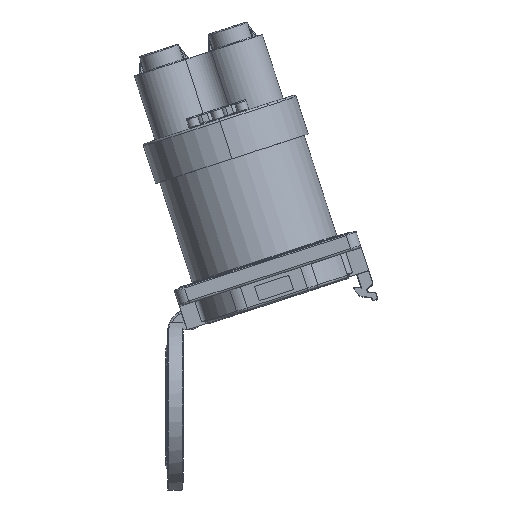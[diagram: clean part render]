
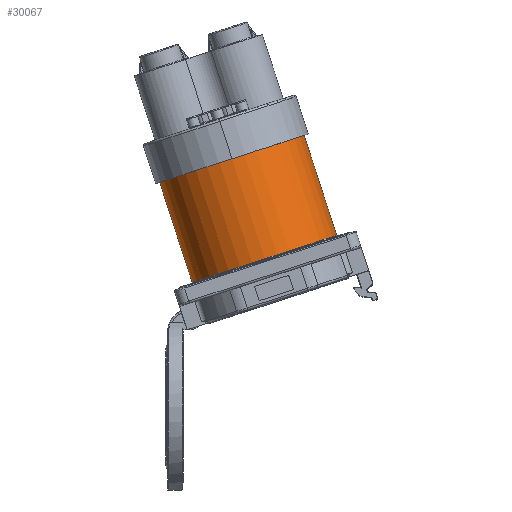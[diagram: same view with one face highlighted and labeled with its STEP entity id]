
A CAD part, front view. The second image highlights one B-rep face of the part: STEP entity #30067.
In plain terms, the highlighted cylindrical face has radius 35.75 mm (diameter 71.5 mm), a partial arc.
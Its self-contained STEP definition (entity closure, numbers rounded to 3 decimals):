
#1136=CARTESIAN_POINT('',(24.657,-19.904,110.429));
#1137=DIRECTION('',(0.309,0.,-0.951));
#1138=DIRECTION('',(0.951,0.,0.309));
#1139=AXIS2_PLACEMENT_3D('',#1136,#1137,#1138);
#1150=DIRECTION('',(0.309,0.,-0.951));
#1151=VECTOR('',#1150,50.586);
#1152=CARTESIAN_POINT('',(58.657,-19.904,121.476));
#1153=LINE('',#1152,#1151);
#1154=DIRECTION('',(-0.309,0.,0.951));
#1155=VECTOR('',#1154,50.586);
#1156=CARTESIAN_POINT('',(6.288,-19.904,51.272));
#1157=LINE('',#1156,#1155);
#1158=CARTESIAN_POINT('',(24.657,-19.904,110.429));
#1159=DIRECTION('',(0.309,0.,-0.951));
#1160=DIRECTION('',(0.,-1.,0.));
#1161=AXIS2_PLACEMENT_3D('',#1158,#1159,#1160);
#1230=CARTESIAN_POINT('',(40.289,-19.904,62.319));
#1231=DIRECTION('',(-0.309,0.,0.951));
#1232=DIRECTION('',(-0.951,0.,-0.309));
#1233=AXIS2_PLACEMENT_3D('',#1230,#1231,#1232);
#1235=CARTESIAN_POINT('',(40.289,-19.904,62.319));
#1236=DIRECTION('',(-0.309,0.,0.951));
#1237=DIRECTION('',(-0.951,-0.006,-0.309));
#1238=AXIS2_PLACEMENT_3D('',#1235,#1236,#1237);
#23346=CARTESIAN_POINT('',(58.657,-19.904,
121.476));
#23347=CARTESIAN_POINT('',(24.657,-55.654,
110.429));
#23348=VERTEX_POINT('',#23346);
#23349=VERTEX_POINT('',#23347);
#23352=CARTESIAN_POINT('',(-9.344,-19.904,
99.382));
#23353=VERTEX_POINT('',#23352);
#23354=CARTESIAN_POINT('',(74.289,-19.904,
73.366));
#23355=VERTEX_POINT('',#23354);
#23356=CARTESIAN_POINT('',(6.289,-20.112,
51.272));
#23357=VERTEX_POINT('',#23356);
#23358=CARTESIAN_POINT('',(6.288,-19.904,
51.272));
#23359=VERTEX_POINT('',#23358);
#30049=CARTESIAN_POINT('',(40.88,-19.904,
60.499));
#30050=DIRECTION('',(-0.309,0.,0.951));
#30051=DIRECTION('',(-0.951,0.,-0.309));
#30052=AXIS2_PLACEMENT_3D('',#30049,#30050,#30051);
#30053=CYLINDRICAL_SURFACE('',#30052,35.75);
#30055=ORIENTED_EDGE('',*,*,#30054,.F.);
#30056=ORIENTED_EDGE('',*,*,#30036,.F.);
#30058=ORIENTED_EDGE('',*,*,#30057,.T.);
#30060=ORIENTED_EDGE('',*,*,#30059,.F.);
#30062=ORIENTED_EDGE('',*,*,#30061,.F.);
#30064=ORIENTED_EDGE('',*,*,#30063,.T.);
#30065=EDGE_LOOP('',(#30055,#30056,#30058,#30060,#30062,#30064));
#30066=FACE_OUTER_BOUND('',#30065,.F.);
#30067=ADVANCED_FACE('',(#30066),#30053,.T.);
#1140=CIRCLE('',#1139,35.75);
#1162=CIRCLE('',#1161,35.75);
#1234=CIRCLE('',#1233,35.75);
#1239=CIRCLE('',#1238,35.75);
#30036=EDGE_CURVE('',#23348,#23349,#1140,.T.);
#30054=EDGE_CURVE('',#23349,#23353,#1162,.T.);
#30057=EDGE_CURVE('',#23348,#23355,#1153,.T.);
#30059=EDGE_CURVE('',#23357,#23355,#1239,.T.);
#30061=EDGE_CURVE('',#23359,#23357,#1234,.T.);
#30063=EDGE_CURVE('',#23359,#23353,#1157,.T.);
